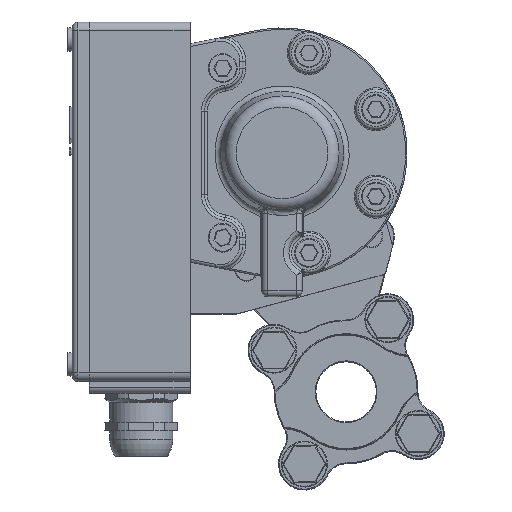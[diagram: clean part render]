
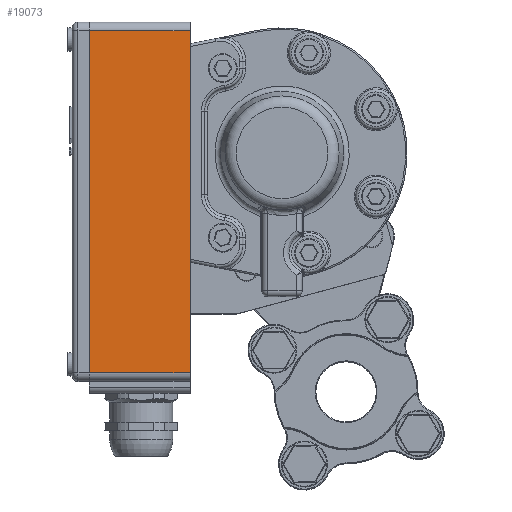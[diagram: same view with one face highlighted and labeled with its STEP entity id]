
A CAD part, top view. The second image highlights one B-rep face of the part: STEP entity #19073.
In plain terms, the highlighted planar face has unit normal (0, 0, 1) as drawn and (1, 0, 0) by its records, which use the part's own axes.
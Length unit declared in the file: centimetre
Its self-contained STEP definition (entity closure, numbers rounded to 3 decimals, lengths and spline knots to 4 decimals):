
#3292=VECTOR('',#23259,1.);
#3304=VECTOR('',#23311,1.);
#3325=VECTOR('',#23353,1.);
#3326=VECTOR('',#23355,1.);
#4521=LINE('',#36734,#3292);
#4533=LINE('',#36793,#3304);
#4554=LINE('',#36838,#3325);
#4555=LINE('',#36840,#3326);
#5576=PLANE('',#20584);
#6464=VERTEX_POINT('',#36733);
#6465=VERTEX_POINT('',#36735);
#6488=VERTEX_POINT('',#36792);
#6489=VERTEX_POINT('',#36794);
#9207=EDGE_CURVE('',#6465,#6464,#4521,.T.);
#9233=EDGE_CURVE('',#6489,#6488,#4533,.T.);
#9258=EDGE_CURVE('',#6465,#6488,#4554,.T.);
#9259=EDGE_CURVE('',#6489,#6464,#4555,.T.);
#12685=ORIENTED_EDGE('',*,*,#9258,.F.);
#12686=ORIENTED_EDGE('',*,*,#9207,.T.);
#12687=ORIENTED_EDGE('',*,*,#9259,.F.);
#12688=ORIENTED_EDGE('',*,*,#9233,.T.);
#16417=EDGE_LOOP('',(#12685,#12686,#12687,#12688));
#17833=FACE_BOUND('',#16417,.T.);
#19073=ADVANCED_FACE('',(#17833),#5576,.T.);
#20584=AXIS2_PLACEMENT_3D('',#36839,#23354,$);
#23259=DIRECTION('',(0.,1.,0.));
#23311=DIRECTION('',(0.,-1.,0.));
#23353=DIRECTION('',(0.,0.,1.));
#23354=DIRECTION('',(1.,0.,0.));
#23355=DIRECTION('',(0.,0.,-1.));
#36733=CARTESIAN_POINT('',(0.,12.2,0.));
#36734=CARTESIAN_POINT('',(0.,0.,0.));
#36735=CARTESIAN_POINT('',(0.,0.3,0.));
#36792=CARTESIAN_POINT('',(0.,0.3,3.5));
#36793=CARTESIAN_POINT('',(0.,0.,3.5));
#36794=CARTESIAN_POINT('',(0.,12.2,3.5));
#36838=CARTESIAN_POINT('',(0.,0.3,0.));
#36839=CARTESIAN_POINT('',(0.,6.25,0.));
#36840=CARTESIAN_POINT('',(0.,12.2,0.));
